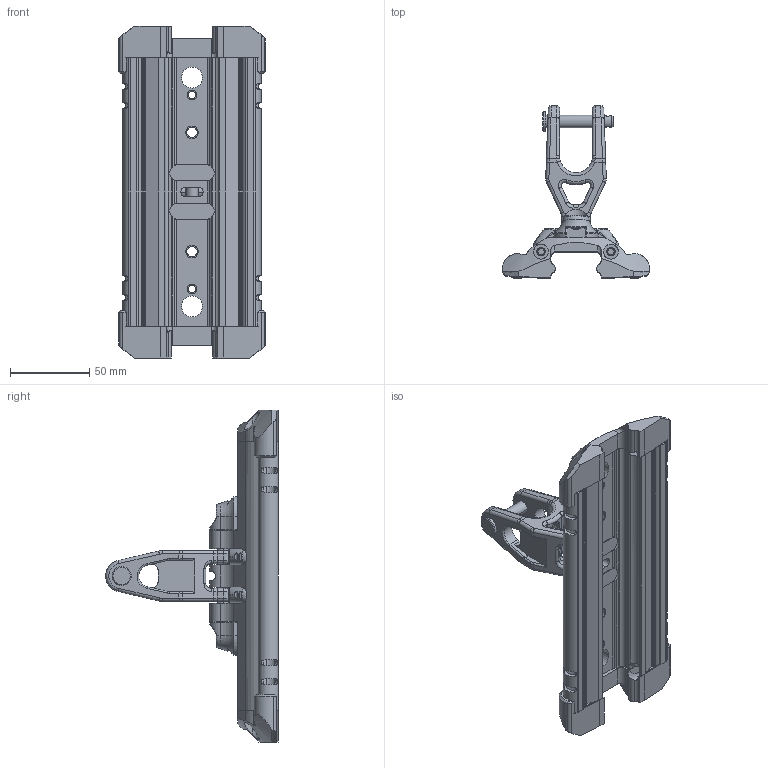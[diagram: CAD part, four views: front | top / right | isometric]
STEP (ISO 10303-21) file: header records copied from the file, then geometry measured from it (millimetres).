
FILE_DESCRIPTION((''),'2;1');
FILE_NAME('29432420_ASM','2008-01-22T',('GPugh'),(''),'PRO/ENGINEER BY PARAMETRIC TECHNOLOGY CORPORATION, 2007030','PRO/ENGINEER BY PARAMETRIC TECHNOLOGY CORPORATION, 2007030','');
FILE_SCHEMA(('CONFIG_CONTROL_DESIGN'));
Length unit declared in the file: millimetre
Products named in the file (10): 25002974; 25002975; 25003494; 25000048; 25003987; 28003229_ASM; 25003593; 25004102; 25004111; 29432420_ASM
Assembly tree (13 placements, depth 3):
  29432420_ASM
    28003229_ASM
      25002974
      25002975  x2
      25003494  x2
      25000048
      25003987  x2
    25003593  x2
    25004102
    25004111
Bounding box: 92.5 x 108.6 x 209 mm (x, y, z)
Volume: 237423.6 mm3; surface area: 115052.4 mm2
Topology: 12 solids, 20 shells, 941 faces, 2445 edges, 1526 vertices
Faces by surface type: cylinder 456, plane 250, bspline 101, torus 88, cone 36, sphere 10
Entity records: 25702 total; most frequent: CARTESIAN_POINT 9161, ORIENTED_EDGE 3460, DIRECTION 3448, EDGE_CURVE 1746, AXIS2_PLACEMENT_3D 1354, VERTEX_POINT 1094, VECTOR 740, LINE 740
